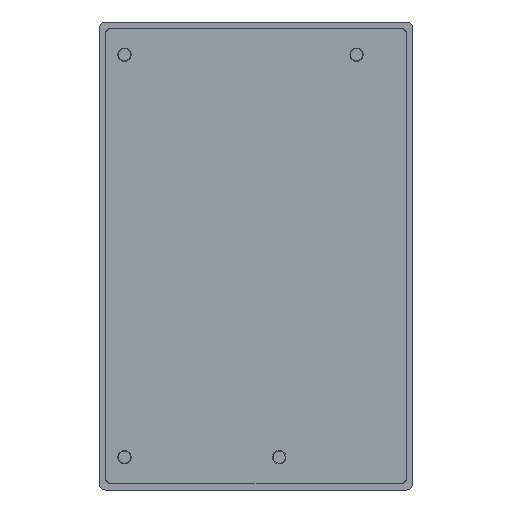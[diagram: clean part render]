
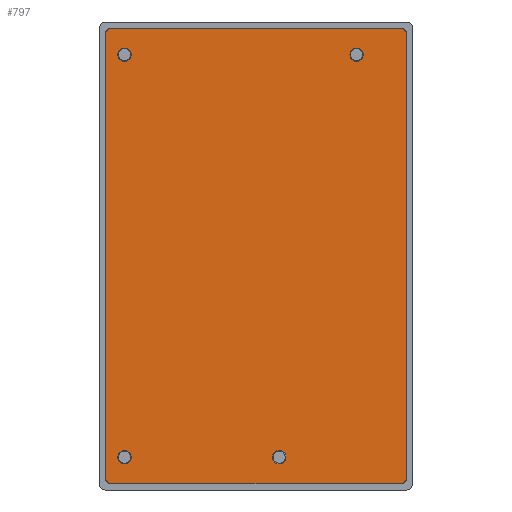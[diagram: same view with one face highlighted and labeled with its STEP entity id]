
A CAD part, top view. The second image highlights one B-rep face of the part: STEP entity #797.
In plain terms, the highlighted planar face has unit normal (0, 0, 1).
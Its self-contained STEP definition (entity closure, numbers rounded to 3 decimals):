
#43=FACE_BOUND('',#164,.T.);
#44=FACE_BOUND('',#165,.T.);
#45=FACE_BOUND('',#166,.T.);
#46=FACE_BOUND('',#167,.T.);
#66=CIRCLE('',#855,0.55);
#67=CIRCLE('',#856,0.55);
#68=CIRCLE('',#857,0.55);
#69=CIRCLE('',#858,0.55);
#112=FACE_OUTER_BOUND('',#163,.T.);
#163=EDGE_LOOP('',(#519,#520,#521,#522,#523,#524,#525,#526));
#164=EDGE_LOOP('',(#527));
#165=EDGE_LOOP('',(#528));
#166=EDGE_LOOP('',(#529));
#167=EDGE_LOOP('',(#530));
#237=LINE('',#1221,#285);
#238=LINE('',#1225,#286);
#239=LINE('',#1229,#287);
#240=LINE('',#1232,#288);
#285=VECTOR('',#961,23.7);
#286=VECTOR('',#964,36.4);
#287=VECTOR('',#967,23.7);
#288=VECTOR('',#970,36.4);
#333=ELLIPSE('',#851,0.5,0.5);
#334=ELLIPSE('',#852,0.5,0.5);
#335=ELLIPSE('',#853,0.5,0.5);
#336=ELLIPSE('',#854,0.5,0.5);
#341=VERTEX_POINT('',#1217);
#342=VERTEX_POINT('',#1218);
#343=VERTEX_POINT('',#1220);
#344=VERTEX_POINT('',#1222);
#345=VERTEX_POINT('',#1224);
#346=VERTEX_POINT('',#1226);
#347=VERTEX_POINT('',#1228);
#348=VERTEX_POINT('',#1230);
#349=VERTEX_POINT('',#1233);
#350=VERTEX_POINT('',#1235);
#351=VERTEX_POINT('',#1237);
#352=VERTEX_POINT('',#1239);
#417=EDGE_CURVE('',#341,#342,#333,.T.);
#418=EDGE_CURVE('',#343,#342,#237,.T.);
#419=EDGE_CURVE('',#343,#344,#334,.T.);
#420=EDGE_CURVE('',#345,#344,#238,.T.);
#421=EDGE_CURVE('',#345,#346,#335,.T.);
#422=EDGE_CURVE('',#347,#346,#239,.T.);
#423=EDGE_CURVE('',#347,#348,#336,.T.);
#424=EDGE_CURVE('',#341,#348,#240,.T.);
#425=EDGE_CURVE('',#349,#349,#66,.T.);
#426=EDGE_CURVE('',#350,#350,#67,.T.);
#427=EDGE_CURVE('',#351,#351,#68,.T.);
#428=EDGE_CURVE('',#352,#352,#69,.T.);
#519=ORIENTED_EDGE('',*,*,#417,.T.);
#520=ORIENTED_EDGE('',*,*,#418,.F.);
#521=ORIENTED_EDGE('',*,*,#419,.T.);
#522=ORIENTED_EDGE('',*,*,#420,.F.);
#523=ORIENTED_EDGE('',*,*,#421,.T.);
#524=ORIENTED_EDGE('',*,*,#422,.F.);
#525=ORIENTED_EDGE('',*,*,#423,.T.);
#526=ORIENTED_EDGE('',*,*,#424,.F.);
#527=ORIENTED_EDGE('',*,*,#425,.T.);
#528=ORIENTED_EDGE('',*,*,#426,.T.);
#529=ORIENTED_EDGE('',*,*,#427,.T.);
#530=ORIENTED_EDGE('',*,*,#428,.T.);
#723=PLANE('',#850);
#797=ADVANCED_FACE('',(#112,#43,#44,#45,#46),#723,.F.);
#850=AXIS2_PLACEMENT_3D('',#1216,#957,#958);
#851=AXIS2_PLACEMENT_3D('',#1219,#959,#960);
#852=AXIS2_PLACEMENT_3D('',#1223,#962,#963);
#853=AXIS2_PLACEMENT_3D('',#1227,#965,#966);
#854=AXIS2_PLACEMENT_3D('',#1231,#968,#969);
#855=AXIS2_PLACEMENT_3D('',#1234,#971,#972);
#856=AXIS2_PLACEMENT_3D('',#1236,#973,#974);
#857=AXIS2_PLACEMENT_3D('',#1238,#975,#976);
#858=AXIS2_PLACEMENT_3D('',#1240,#977,#978);
#957=DIRECTION('center_axis',(0.,0.,-1.));
#958=DIRECTION('ref_axis',(-1.,0.,0.));
#959=DIRECTION('center_axis',(0.,0.,1.));
#960=DIRECTION('ref_axis',(0.707,0.707,0.));
#961=DIRECTION('',(1.,0.,0.));
#962=DIRECTION('center_axis',(0.,0.,1.));
#963=DIRECTION('ref_axis',(-0.707,0.707,0.));
#964=DIRECTION('',(0.,1.,0.));
#965=DIRECTION('center_axis',(0.,0.,1.));
#966=DIRECTION('ref_axis',(-0.707,-0.707,0.));
#967=DIRECTION('',(-1.,0.,0.));
#968=DIRECTION('center_axis',(0.,0.,1.));
#969=DIRECTION('ref_axis',(0.707,-0.707,0.));
#970=DIRECTION('',(0.,-1.,0.));
#971=DIRECTION('center_axis',(0.,0.,-1.));
#972=DIRECTION('ref_axis',(-1.,0.,0.));
#973=DIRECTION('center_axis',(0.,0.,-1.));
#974=DIRECTION('ref_axis',(-1.,0.,0.));
#975=DIRECTION('center_axis',(0.,0.,-1.));
#976=DIRECTION('ref_axis',(-1.,0.,0.));
#977=DIRECTION('center_axis',(0.,0.,-1.));
#978=DIRECTION('ref_axis',(-1.,0.,0.));
#1216=CARTESIAN_POINT('Origin',(0.,0.,16.033));
#1217=CARTESIAN_POINT('',(12.35,18.2,16.033));
#1218=CARTESIAN_POINT('',(11.85,18.7,16.033));
#1219=CARTESIAN_POINT('Origin',(11.85,18.2,16.033));
#1220=CARTESIAN_POINT('',(-11.85,18.7,16.033));
#1221=CARTESIAN_POINT('',(6.425,18.7,16.033));
#1222=CARTESIAN_POINT('',(-12.35,18.2,16.033));
#1223=CARTESIAN_POINT('Origin',(-11.85,18.2,16.033));
#1224=CARTESIAN_POINT('',(-12.35,-18.2,16.033));
#1225=CARTESIAN_POINT('',(-12.35,9.6,16.033));
#1226=CARTESIAN_POINT('',(-11.85,-18.7,16.033));
#1227=CARTESIAN_POINT('Origin',(-11.85,-18.2,16.033));
#1228=CARTESIAN_POINT('',(11.85,-18.7,16.033));
#1229=CARTESIAN_POINT('',(-6.425,-18.7,16.033));
#1230=CARTESIAN_POINT('',(12.35,-18.2,16.033));
#1231=CARTESIAN_POINT('Origin',(11.85,-18.2,16.033));
#1232=CARTESIAN_POINT('',(12.35,-9.6,16.033));
#1233=CARTESIAN_POINT('',(-10.245,-16.51,16.033));
#1234=CARTESIAN_POINT('Origin',(-10.795,-16.51,16.033));
#1235=CARTESIAN_POINT('',(-10.245,16.51,16.033));
#1236=CARTESIAN_POINT('Origin',(-10.795,16.51,16.033));
#1237=CARTESIAN_POINT('',(8.805,16.51,16.033));
#1238=CARTESIAN_POINT('Origin',(8.255,16.51,16.033));
#1239=CARTESIAN_POINT('',(2.455,-16.51,16.033));
#1240=CARTESIAN_POINT('Origin',(1.905,-16.51,16.033));
